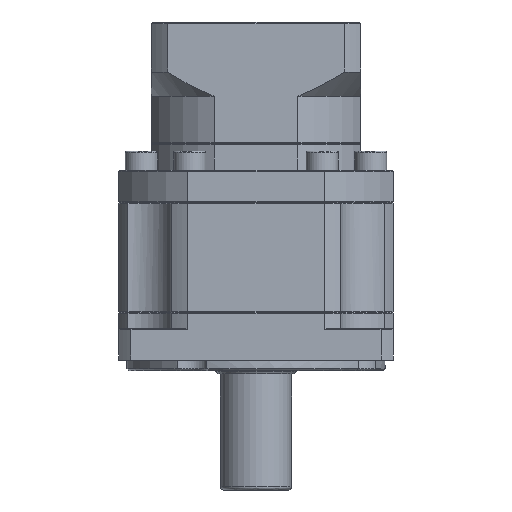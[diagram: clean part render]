
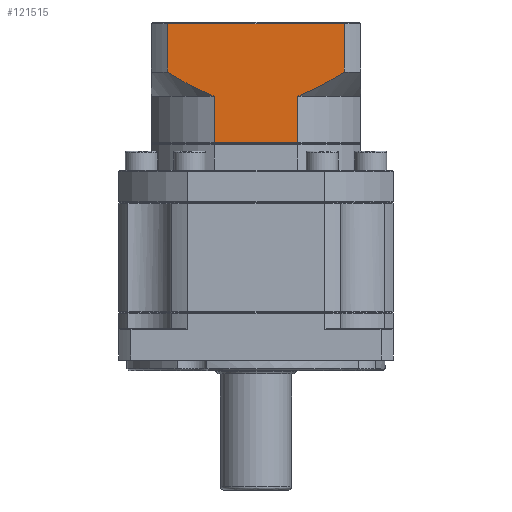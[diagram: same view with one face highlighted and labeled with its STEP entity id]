
A CAD part, front view. The second image highlights one B-rep face of the part: STEP entity #121515.
In plain terms, the highlighted planar face has unit normal (0, -1, 0).
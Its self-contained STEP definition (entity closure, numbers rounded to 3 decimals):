
#836 = VERTEX_POINT ( 'NONE', #76803 ) ;
#3572 = B_SPLINE_CURVE_WITH_KNOTS ( 'NONE', 3,
 ( #107258, #96946, #107715, #16010, #25837, #35615, #96514, #106822, #66943, #116685 ),
 .UNSPECIFIED., .F., .F.,
 ( 4, 2, 2, 2, 4 ),
 ( 0.101, 0.104, 0.106, 0.11, 0.118 ),
 .UNSPECIFIED. ) ;
#3706 = CARTESIAN_POINT ( 'NONE',  ( -54.368, -39.013, 183.152 ) ) ;
#6800 = VERTEX_POINT ( 'NONE', #63872 ) ;
#8305 = CARTESIAN_POINT ( 'NONE',  ( 0.404, -39.013, 198.152 ) ) ;
#8467 = ORIENTED_EDGE ( 'NONE', *, *, #92986, .F. ) ;
#8542 = EDGE_CURVE ( 'NONE', #116330, #103265, #14640, .T. ) ;
#9230 = VERTEX_POINT ( 'NONE', #95494 ) ;
#9554 = CARTESIAN_POINT ( 'NONE',  ( -54.368, -39.013, 180.652 ) ) ;
#12231 = CARTESIAN_POINT ( 'NONE',  ( -1.886, -39.013, 181.703 ) ) ;
#14110 = VECTOR ( 'NONE', #83253, 1000. ) ;
#14134 = ORIENTED_EDGE ( 'NONE', *, *, #8542, .F. ) ;
#14640 = LINE ( 'NONE', #100939, #32262 ) ;
#15473 = CARTESIAN_POINT ( 'NONE',  ( 5.518, -39.013, 198.652 ) ) ;
#16010 = CARTESIAN_POINT ( 'NONE',  ( -42.514, -39.013, 176.668 ) ) ;
#16423 = LINE ( 'NONE', #36118, #122065 ) ;
#24085 = CARTESIAN_POINT ( 'NONE',  ( 5.518, -39.013, 161.241 ) ) ;
#24089 = EDGE_LOOP ( 'NONE', ( #14134, #92819, #8467, #111258, #100655, #42677, #100874, #101205 ) ) ;
#24271 = CARTESIAN_POINT ( 'NONE',  ( 0.404, -39.013, 183.152 ) ) ;
#24411 = B_SPLINE_CURVE_WITH_KNOTS ( 'NONE', 3,
 ( #24271, #32779, #12231, #54633, #44354, #83756, #124946, #125836 ),
 .UNSPECIFIED., .F., .F.,
 ( 4, 2, 2, 4 ),
 ( 0.059, 0.063, 0.067, 0.075 ),
 .UNSPECIFIED. ) ;
#25349 = LINE ( 'NONE', #24085, #129534 ) ;
#25837 = CARTESIAN_POINT ( 'NONE',  ( -43.138, -39.013, 176.942 ) ) ;
#28715 = LINE ( 'NONE', #82431, #123219 ) ;
#30864 = FACE_OUTER_BOUND ( 'NONE', #24089, .T. ) ;
#32262 = VECTOR ( 'NONE', #49863, 1000. ) ;
#32779 = CARTESIAN_POINT ( 'NONE',  ( -0.734, -39.013, 182.418 ) ) ;
#33341 = LINE ( 'NONE', #113722, #14110 ) ;
#35615 = CARTESIAN_POINT ( 'NONE',  ( -44.991, -39.013, 177.792 ) ) ;
#36118 = CARTESIAN_POINT ( 'NONE',  ( -39.972, -39.013, 175.652 ) ) ;
#38791 = EDGE_CURVE ( 'NONE', #60881, #6800, #25349, .T. ) ;
#42677 = ORIENTED_EDGE ( 'NONE', *, *, #38791, .T. ) ;
#44063 = CARTESIAN_POINT ( 'NONE',  ( -39.972, -39.013, 175.652 ) ) ;
#44354 = CARTESIAN_POINT ( 'NONE',  ( -5.407, -39.013, 179.648 ) ) ;
#49863 = DIRECTION ( 'NONE',  ( 0., 0., -1. ) ) ;
#50405 = EDGE_CURVE ( 'NONE', #69419, #118090, #3572, .T. ) ;
#54633 = CARTESIAN_POINT ( 'NONE',  ( -4.222, -39.013, 180.318 ) ) ;
#59526 = DIRECTION ( 'NONE',  ( 0., 0., 1. ) ) ;
#60191 = CARTESIAN_POINT ( 'NONE',  ( 0.404, -39.013, 183.152 ) ) ;
#60881 = VERTEX_POINT ( 'NONE', #96587 ) ;
#62714 = EDGE_CURVE ( 'NONE', #9230, #6800, #28715, .T. ) ;
#63872 = CARTESIAN_POINT ( 'NONE',  ( -13.991, -39.013, 161.241 ) ) ;
#66943 = CARTESIAN_POINT ( 'NONE',  ( -52.099, -39.013, 181.69 ) ) ;
#69399 = AXIS2_PLACEMENT_3D ( 'NONE', #15473, #114337, #107178 ) ;
#69419 = VERTEX_POINT ( 'NONE', #44063 ) ;
#72179 = DIRECTION ( 'NONE',  ( 0., 0., -1. ) ) ;
#73170 = EDGE_CURVE ( 'NONE', #116330, #836, #33341, .T. ) ;
#76803 = CARTESIAN_POINT ( 'NONE',  ( -54.368, -39.013, 198.152 ) ) ;
#81456 = VECTOR ( 'NONE', #59526, 1000. ) ;
#82431 = CARTESIAN_POINT ( 'NONE',  ( -13.991, -39.013, 175.652 ) ) ;
#83253 = DIRECTION ( 'NONE',  ( -1., 0., 0. ) ) ;
#83756 = CARTESIAN_POINT ( 'NONE',  ( -9.001, -39.013, 177.739 ) ) ;
#91091 = LINE ( 'NONE', #9554, #81456 ) ;
#92819 = ORIENTED_EDGE ( 'NONE', *, *, #73170, .T. ) ;
#92986 = EDGE_CURVE ( 'NONE', #118090, #836, #91091, .T. ) ;
#95494 = CARTESIAN_POINT ( 'NONE',  ( -13.991, -39.013, 175.652 ) ) ;
#96514 = CARTESIAN_POINT ( 'NONE',  ( -46.203, -39.013, 178.397 ) ) ;
#96587 = CARTESIAN_POINT ( 'NONE',  ( -39.972, -39.013, 161.241 ) ) ;
#96946 = CARTESIAN_POINT ( 'NONE',  ( -40.615, -39.013, 175.89 ) ) ;
#97327 = EDGE_CURVE ( 'NONE', #103265, #9230, #24411, .T. ) ;
#100655 = ORIENTED_EDGE ( 'NONE', *, *, #101206, .F. ) ;
#100874 = ORIENTED_EDGE ( 'NONE', *, *, #62714, .F. ) ;
#100939 = CARTESIAN_POINT ( 'NONE',  ( 0.404, -39.013, 180.652 ) ) ;
#101205 = ORIENTED_EDGE ( 'NONE', *, *, #97327, .F. ) ;
#101206 = EDGE_CURVE ( 'NONE', #60881, #69419, #16423, .T. ) ;
#103265 = VERTEX_POINT ( 'NONE', #60191 ) ;
#106822 = CARTESIAN_POINT ( 'NONE',  ( -49.784, -39.013, 180.302 ) ) ;
#107178 = DIRECTION ( 'NONE',  ( -1., 0., 0. ) ) ;
#107258 = CARTESIAN_POINT ( 'NONE',  ( -39.972, -39.013, 175.652 ) ) ;
#107715 = CARTESIAN_POINT ( 'NONE',  ( -41.253, -39.013, 176.143 ) ) ;
#111258 = ORIENTED_EDGE ( 'NONE', *, *, #50405, .F. ) ;
#113722 = CARTESIAN_POINT ( 'NONE',  ( -54.368, -39.013, 198.152 ) ) ;
#114337 = DIRECTION ( 'NONE',  ( 0., 1., 0. ) ) ;
#115821 = DIRECTION ( 'NONE',  ( 1., 0., 0. ) ) ;
#116330 = VERTEX_POINT ( 'NONE', #8305 ) ;
#116685 = CARTESIAN_POINT ( 'NONE',  ( -54.368, -39.013, 183.152 ) ) ;
#117615 = DIRECTION ( 'NONE',  ( 0., 0., 1. ) ) ;
#118090 = VERTEX_POINT ( 'NONE', #3706 ) ;
#121515 = ADVANCED_FACE ( 'NONE', ( #30864 ), #122865, .F. ) ;
#122065 = VECTOR ( 'NONE', #117615, 1000. ) ;
#122865 = PLANE ( 'NONE',  #69399 ) ;
#123219 = VECTOR ( 'NONE', #72179, 1000. ) ;
#124946 = CARTESIAN_POINT ( 'NONE',  ( -11.453, -39.013, 176.594 ) ) ;
#125836 = CARTESIAN_POINT ( 'NONE',  ( -13.991, -39.013, 175.652 ) ) ;
#129534 = VECTOR ( 'NONE', #115821, 1000. ) ;
